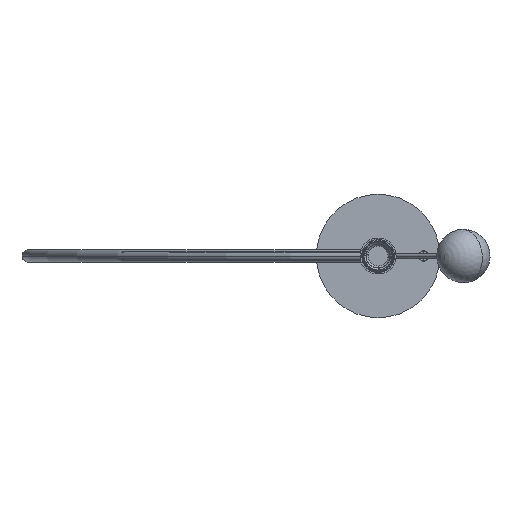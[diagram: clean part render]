
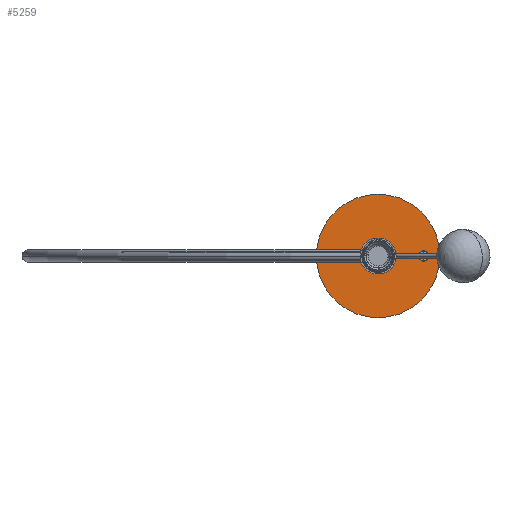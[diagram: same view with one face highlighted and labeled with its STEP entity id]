
A CAD part, front view. The second image highlights one B-rep face of the part: STEP entity #5259.
In plain terms, the highlighted planar face has unit normal (0, -1, 0).
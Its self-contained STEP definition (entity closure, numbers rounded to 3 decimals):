
#236 = FACE_BOUND ( 'NONE', #10501, .T. ) ;
#343 = DIRECTION ( 'NONE',  ( 0., 0., -1. ) ) ;
#747 = ORIENTED_EDGE ( 'NONE', *, *, #21096, .F. ) ;
#774 = EDGE_LOOP ( 'NONE', ( #747, #20603 ) ) ;
#1091 = ORIENTED_EDGE ( 'NONE', *, *, #6911, .F. ) ;
#1268 = DIRECTION ( 'NONE',  ( 0., 0., -1. ) ) ;
#1269 = CARTESIAN_POINT ( 'NONE',  ( 0., -1., 0. ) ) ;
#1552 = CIRCLE ( 'NONE', #7660, 4.7 ) ;
#1814 = ORIENTED_EDGE ( 'NONE', *, *, #9192, .F. ) ;
#1844 = DIRECTION ( 'NONE',  ( 0., 0., -1. ) ) ;
#1873 = EDGE_LOOP ( 'NONE', ( #16980, #3292 ) ) ;
#1904 = AXIS2_PLACEMENT_3D ( 'NONE', #19158, #17587, #1844 ) ;
#2084 = VERTEX_POINT ( 'NONE', #10444 ) ;
#2885 = EDGE_CURVE ( 'NONE', #11177, #2898, #8466, .T. ) ;
#2898 = VERTEX_POINT ( 'NONE', #20403 ) ;
#2952 = DIRECTION ( 'NONE',  ( 0., -1., 0. ) ) ;
#3292 = ORIENTED_EDGE ( 'NONE', *, *, #17536, .T. ) ;
#3389 = FACE_BOUND ( 'NONE', #12040, .T. ) ;
#4458 = CARTESIAN_POINT ( 'NONE',  ( -44.45, -1., 0. ) ) ;
#4605 = DIRECTION ( 'NONE',  ( 0., 0., -1. ) ) ;
#4651 = DIRECTION ( 'NONE',  ( 0., 1., 0. ) ) ;
#5259 = ADVANCED_FACE ( 'NONE', ( #236, #3389, #19009, #10272 ), #19116, .T. ) ;
#5524 = CARTESIAN_POINT ( 'NONE',  ( -44.45, -1., -4.7 ) ) ;
#6545 = CARTESIAN_POINT ( 'NONE',  ( 0., -1., -5.05 ) ) ;
#6572 = CIRCLE ( 'NONE', #16359, 4.7 ) ;
#6911 = EDGE_CURVE ( 'NONE', #18968, #9371, #1552, .T. ) ;
#7660 = AXIS2_PLACEMENT_3D ( 'NONE', #4458, #18026, #11328 ) ;
#7755 = AXIS2_PLACEMENT_3D ( 'NONE', #1269, #4651, #18441 ) ;
#7951 = EDGE_CURVE ( 'NONE', #2084, #13059, #13114, .T. ) ;
#7972 = CARTESIAN_POINT ( 'NONE',  ( 0., -1., -60. ) ) ;
#8086 = CARTESIAN_POINT ( 'NONE',  ( 44.45, -1., 0. ) ) ;
#8466 = CIRCLE ( 'NONE', #11735, 60. ) ;
#8569 = CARTESIAN_POINT ( 'NONE',  ( 0., -1., 0. ) ) ;
#8682 = DIRECTION ( 'NONE',  ( 0., 0., -1. ) ) ;
#9192 = EDGE_CURVE ( 'NONE', #13059, #2084, #6572, .T. ) ;
#9371 = VERTEX_POINT ( 'NONE', #5524 ) ;
#9427 = CARTESIAN_POINT ( 'NONE',  ( 0., -1., 0. ) ) ;
#9438 = AXIS2_PLACEMENT_3D ( 'NONE', #21733, #20028, #19795 ) ;
#9622 = CARTESIAN_POINT ( 'NONE',  ( 0., -1., 5.05 ) ) ;
#10272 = FACE_OUTER_BOUND ( 'NONE', #774, .T. ) ;
#10444 = CARTESIAN_POINT ( 'NONE',  ( 44.45, -1., 4.7 ) ) ;
#10501 = EDGE_LOOP ( 'NONE', ( #1814, #19667 ) ) ;
#11177 = VERTEX_POINT ( 'NONE', #7972 ) ;
#11328 = DIRECTION ( 'NONE',  ( 0., 0., -1. ) ) ;
#11526 = CARTESIAN_POINT ( 'NONE',  ( -44.45, -1., 0. ) ) ;
#11599 = CIRCLE ( 'NONE', #11938, 4.7 ) ;
#11661 = DIRECTION ( 'NONE',  ( 0., 1., 0. ) ) ;
#11735 = AXIS2_PLACEMENT_3D ( 'NONE', #12092, #11661, #8682 ) ;
#11938 = AXIS2_PLACEMENT_3D ( 'NONE', #11526, #2952, #1268 ) ;
#12040 = EDGE_LOOP ( 'NONE', ( #19880, #1091 ) ) ;
#12092 = CARTESIAN_POINT ( 'NONE',  ( 0., -1., 0. ) ) ;
#12343 = CIRCLE ( 'NONE', #13455, 5.05 ) ;
#12841 = DIRECTION ( 'NONE',  ( 0., 0., -1. ) ) ;
#13059 = VERTEX_POINT ( 'NONE', #15815 ) ;
#13114 = CIRCLE ( 'NONE', #1904, 4.7 ) ;
#13252 = CARTESIAN_POINT ( 'NONE',  ( -44.45, -1., 4.7 ) ) ;
#13455 = AXIS2_PLACEMENT_3D ( 'NONE', #9427, #14561, #12841 ) ;
#13992 = VERTEX_POINT ( 'NONE', #9622 ) ;
#14028 = DIRECTION ( 'NONE',  ( 0., -1., 0. ) ) ;
#14547 = CIRCLE ( 'NONE', #9438, 5.05 ) ;
#14561 = DIRECTION ( 'NONE',  ( 0., 1., 0. ) ) ;
#14646 = CIRCLE ( 'NONE', #7755, 60. ) ;
#15815 = CARTESIAN_POINT ( 'NONE',  ( 44.45, -1., -4.7 ) ) ;
#16359 = AXIS2_PLACEMENT_3D ( 'NONE', #8086, #22040, #4605 ) ;
#16980 = ORIENTED_EDGE ( 'NONE', *, *, #19387, .T. ) ;
#17536 = EDGE_CURVE ( 'NONE', #19053, #13992, #12343, .T. ) ;
#17587 = DIRECTION ( 'NONE',  ( 0., -1., 0. ) ) ;
#18026 = DIRECTION ( 'NONE',  ( 0., -1., 0. ) ) ;
#18441 = DIRECTION ( 'NONE',  ( 0., 0., -1. ) ) ;
#18968 = VERTEX_POINT ( 'NONE', #13252 ) ;
#19009 = FACE_BOUND ( 'NONE', #1873, .T. ) ;
#19053 = VERTEX_POINT ( 'NONE', #6545 ) ;
#19116 = PLANE ( 'NONE',  #20666 ) ;
#19158 = CARTESIAN_POINT ( 'NONE',  ( 44.45, -1., 0. ) ) ;
#19387 = EDGE_CURVE ( 'NONE', #13992, #19053, #14547, .T. ) ;
#19667 = ORIENTED_EDGE ( 'NONE', *, *, #7951, .F. ) ;
#19795 = DIRECTION ( 'NONE',  ( 0., 0., -1. ) ) ;
#19880 = ORIENTED_EDGE ( 'NONE', *, *, #20502, .F. ) ;
#20028 = DIRECTION ( 'NONE',  ( 0., 1., 0. ) ) ;
#20403 = CARTESIAN_POINT ( 'NONE',  ( 0., -1., 60. ) ) ;
#20502 = EDGE_CURVE ( 'NONE', #9371, #18968, #11599, .T. ) ;
#20603 = ORIENTED_EDGE ( 'NONE', *, *, #2885, .F. ) ;
#20666 = AXIS2_PLACEMENT_3D ( 'NONE', #8569, #14028, #343 ) ;
#21096 = EDGE_CURVE ( 'NONE', #2898, #11177, #14646, .T. ) ;
#21733 = CARTESIAN_POINT ( 'NONE',  ( 0., -1., 0. ) ) ;
#22040 = DIRECTION ( 'NONE',  ( 0., -1., 0. ) ) ;
